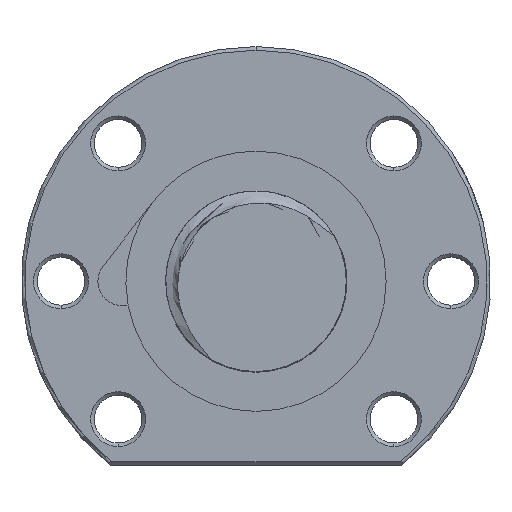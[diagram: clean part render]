
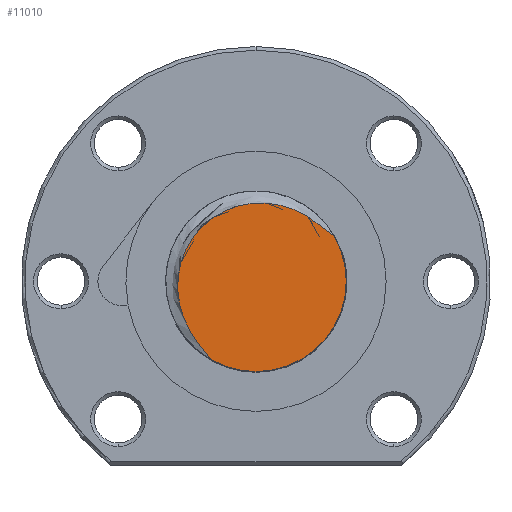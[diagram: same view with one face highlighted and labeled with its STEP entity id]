
A CAD part, left-side view. The second image highlights one B-rep face of the part: STEP entity #11010.
In plain terms, the highlighted planar face has unit normal (-1, 0, 0).
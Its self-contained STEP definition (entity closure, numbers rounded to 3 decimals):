
#11010 = ADVANCED_FACE ( 'NONE', ( #13505 ), #13497, .F. ) ;
#11011 = EDGE_LOOP ( 'NONE', ( #11012, #11013, #11015 ) ) ;
#11012 = ORIENTED_EDGE ( 'NONE', *, *, #12226, .F. ) ;
#11013 = ORIENTED_EDGE ( 'NONE', *, *, #11014, .T. ) ;
#11014 = EDGE_CURVE ( 'NONE', #12227, #12279, #13491, .T. ) ;
#11015 = ORIENTED_EDGE ( 'NONE', *, *, #12105, .F. ) ;
#12103 = VERTEX_POINT ( 'NONE', #17483 ) ;
#12105 = EDGE_CURVE ( 'NONE', #12103, #12279, #17481, .T. ) ;
#12226 = EDGE_CURVE ( 'NONE', #12227, #12103, #22658, .T. ) ;
#12227 = VERTEX_POINT ( 'NONE', #22654 ) ;
#12279 = VERTEX_POINT ( 'NONE', #23549 ) ;
#13388 = CARTESIAN_POINT ( 'NONE',  ( -95., 10.507, -3.531 ) ) ;
#13389 = CARTESIAN_POINT ( 'NONE',  ( -95., 10.682, -2.693 ) ) ;
#13390 = CARTESIAN_POINT ( 'NONE',  ( -95., 10.747, -2.271 ) ) ;
#13391 = CARTESIAN_POINT ( 'NONE',  ( -95., 10.834, -1.423 ) ) ;
#13392 = CARTESIAN_POINT ( 'NONE',  ( -95., 10.855, -0.996 ) ) ;
#13393 = CARTESIAN_POINT ( 'NONE',  ( -95., 10.851, -0.138 ) ) ;
#13394 = CARTESIAN_POINT ( 'NONE',  ( -95., 10.825, 0.295 ) ) ;
#13395 = CARTESIAN_POINT ( 'NONE',  ( -95., 10.677, 1.571 ) ) ;
#13396 = CARTESIAN_POINT ( 'NONE',  ( -95., 10.486, 2.402 ) ) ;
#13397 = CARTESIAN_POINT ( 'NONE',  ( -95., 10.062, 3.617 ) ) ;
#13398 = CARTESIAN_POINT ( 'NONE',  ( -95., 9.896, 4.018 ) ) ;
#13399 = CARTESIAN_POINT ( 'NONE',  ( -95., 9.525, 4.79 ) ) ;
#13400 = CARTESIAN_POINT ( 'NONE',  ( -95., 9.319, 5.163 ) ) ;
#13401 = CARTESIAN_POINT ( 'NONE',  ( -95., 8.865, 5.884 ) ) ;
#13402 = CARTESIAN_POINT ( 'NONE',  ( -95., 8.618, 6.232 ) ) ;
#13403 = CARTESIAN_POINT ( 'NONE',  ( -95., 8.082, 6.902 ) ) ;
#13404 = CARTESIAN_POINT ( 'NONE',  ( -95., 7.792, 7.225 ) ) ;
#13405 = CARTESIAN_POINT ( 'NONE',  ( -95., 6.883, 8.131 ) ) ;
#13406 = CARTESIAN_POINT ( 'NONE',  ( -95., 6.216, 8.661 ) ) ;
#13407 = CARTESIAN_POINT ( 'NONE',  ( -95., 5.124, 9.341 ) ) ;
#13408 = CARTESIAN_POINT ( 'NONE',  ( -95., 4.743, 9.549 ) ) ;
#13409 = CARTESIAN_POINT ( 'NONE',  ( -95., 3.97, 9.916 ) ) ;
#13410 = CARTESIAN_POINT ( 'NONE',  ( -95., 3.576, 10.077 ) ) ;
#13411 = CARTESIAN_POINT ( 'NONE',  ( -95., 2.772, 10.356 ) ) ;
#13412 = CARTESIAN_POINT ( 'NONE',  ( -95., 2.362, 10.473 ) ) ;
#13413 = CARTESIAN_POINT ( 'NONE',  ( -95., 1.527, 10.662 ) ) ;
#13414 = CARTESIAN_POINT ( 'NONE',  ( -95., 1.099, 10.734 ) ) ;
#13415 = CARTESIAN_POINT ( 'NONE',  ( -95., -0.179, 10.875 ) ) ;
#13416 = CARTESIAN_POINT ( 'NONE',  ( -95., -1.028, 10.875 ) ) ;
#13417 = CARTESIAN_POINT ( 'NONE',  ( -95., -2.296, 10.744 ) ) ;
#13418 = CARTESIAN_POINT ( 'NONE',  ( -95., -2.718, 10.678 ) ) ;
#13419 = CARTESIAN_POINT ( 'NONE',  ( -95., -3.56, 10.501 ) ) ;
#13420 = CARTESIAN_POINT ( 'NONE',  ( -95., -3.976, 10.389 ) ) ;
#13421 = CARTESIAN_POINT ( 'NONE',  ( -95., -5.194, 9.997 ) ) ;
#13422 = CARTESIAN_POINT ( 'NONE',  ( -95., -5.972, 9.656 ) ) ;
#13423 = CARTESIAN_POINT ( 'NONE',  ( -95., -7.094, 9.039 ) ) ;
#13424 = CARTESIAN_POINT ( 'NONE',  ( -95., -7.462, 8.815 ) ) ;
#13425 = CARTESIAN_POINT ( 'NONE',  ( -95., -8.177, 8.338 ) ) ;
#13426 = CARTESIAN_POINT ( 'NONE',  ( -95., -8.524, 8.086 ) ) ;
#13427 = CARTESIAN_POINT ( 'NONE',  ( -95., -9.201, 7.558 ) ) ;
#13428 = CARTESIAN_POINT ( 'NONE',  ( -95., -9.531, 7.283 ) ) ;
#13429 = CARTESIAN_POINT ( 'NONE',  ( -95., -10.022, 6.866 ) ) ;
#13430 = CARTESIAN_POINT ( 'NONE',  ( -95., -10.185, 6.727 ) ) ;
#13431 = CARTESIAN_POINT ( 'NONE',  ( -95., -10.515, 6.453 ) ) ;
#13432 = CARTESIAN_POINT ( 'NONE',  ( -95., -10.681, 6.317 ) ) ;
#13433 = CARTESIAN_POINT ( 'NONE',  ( -95., -10.857, 6.195 ) ) ;
#13448 = CARTESIAN_POINT ( 'NONE',  ( -95., 6.195, -10.857 ) ) ;
#13449 = CARTESIAN_POINT ( 'NONE',  ( -95., 6.318, -10.68 ) ) ;
#13450 = CARTESIAN_POINT ( 'NONE',  ( -95., 6.455, -10.513 ) ) ;
#13451 = CARTESIAN_POINT ( 'NONE',  ( -95., 6.73, -10.182 ) ) ;
#13452 = CARTESIAN_POINT ( 'NONE',  ( -95., 6.87, -10.018 ) ) ;
#13453 = CARTESIAN_POINT ( 'NONE',  ( -95., 7.288, -9.526 ) ) ;
#13454 = CARTESIAN_POINT ( 'NONE',  ( -95., 7.564, -9.195 ) ) ;
#13455 = CARTESIAN_POINT ( 'NONE',  ( -95., 8.092, -8.515 ) ) ;
#13456 = CARTESIAN_POINT ( 'NONE',  ( -95., 8.344, -8.168 ) ) ;
#13457 = CARTESIAN_POINT ( 'NONE',  ( -95., 8.822, -7.451 ) ) ;
#13458 = CARTESIAN_POINT ( 'NONE',  ( -95., 9.046, -7.083 ) ) ;
#13459 = CARTESIAN_POINT ( 'NONE',  ( -95., 9.663, -5.958 ) ) ;
#13460 = CARTESIAN_POINT ( 'NONE',  ( -95., 10.005, -5.177 ) ) ;
#13461 = CARTESIAN_POINT ( 'NONE',  ( -95., 10.397, -3.95 ) ) ;
#13491 = B_SPLINE_CURVE_WITH_KNOTS ( 'NONE', 3,
 ( #13433, #13432, #13431, #13430, #13429, #13428, #13427, #13426, #13425, #13424, #13423, #13422, #13421, #13420, #13419, #13418, #13417, #13416, #13415, #13414, #13413, #13412, #13411, #13410, #13409, #13408, #13407, #13406, #13405, #13404, #13403, #13402, #13401, #13400, #13399, #13398, #13397, #13396, #13395, #13394, #13393, #13392, #13391, #13390, #13389, #13388, #13461, #13460, #13459, #13458, #13457, #13456, #13455, #13454, #13453, #13452, #13451, #13450, #13449, #13448 ),
 .UNSPECIFIED., .F., .F.,
 ( 4, 2, 2, 2, 2, 2, 2, 2, 2, 2, 2, 2, 2, 2, 2, 2, 2, 2, 2, 2, 2, 2, 2, 2, 2, 2, 2, 2, 2, 4 ),
 ( 0.009, 0.01, 0.01, 0.011, 0.013, 0.014, 0.016, 0.018, 0.019, 0.022, 0.023, 0.024, 0.025, 0.027, 0.029, 0.03, 0.032, 0.033, 0.034, 0.037, 0.038, 0.039, 0.04, 0.042, 0.044, 0.045, 0.047, 0.048, 0.049, 0.049 ),
 .UNSPECIFIED. ) ;
#13493 = DIRECTION ( 'NONE',  ( 0., 0., -1. ) ) ;
#13494 = DIRECTION ( 'NONE',  ( 1., 0., 0. ) ) ;
#13495 = CARTESIAN_POINT ( 'NONE',  ( -95., 0., 0. ) ) ;
#13496 = AXIS2_PLACEMENT_3D ( 'NONE', #13495, #13494, #13493 ) ;
#13497 = PLANE ( 'NONE',  #13496 ) ;
#13505 = FACE_OUTER_BOUND ( 'NONE', #11011, .T. ) ;
#17480 = AXIS2_PLACEMENT_3D ( 'NONE', #17548, #17547, #17546 ) ;
#17481 = CIRCLE ( 'NONE', #17480, 12.5 ) ;
#17483 = CARTESIAN_POINT ( 'NONE',  ( -95., 0., -12.5 ) ) ;
#17546 = DIRECTION ( 'NONE',  ( 0., 1., 0. ) ) ;
#17547 = DIRECTION ( 'NONE',  ( 1., 0., 0. ) ) ;
#17548 = CARTESIAN_POINT ( 'NONE',  ( -95., 0., 0. ) ) ;
#22654 = CARTESIAN_POINT ( 'NONE',  ( -95., -10.857, 6.195 ) ) ;
#22655 = DIRECTION ( 'NONE',  ( 0., 1., 0. ) ) ;
#22656 = DIRECTION ( 'NONE',  ( 1., 0., 0. ) ) ;
#22657 = AXIS2_PLACEMENT_3D ( 'NONE', #22663, #22656, #22655 ) ;
#22658 = CIRCLE ( 'NONE', #22657, 12.5 ) ;
#22663 = CARTESIAN_POINT ( 'NONE',  ( -95., 0., 0. ) ) ;
#23549 = CARTESIAN_POINT ( 'NONE',  ( -95., 6.195, -10.857 ) ) ;
